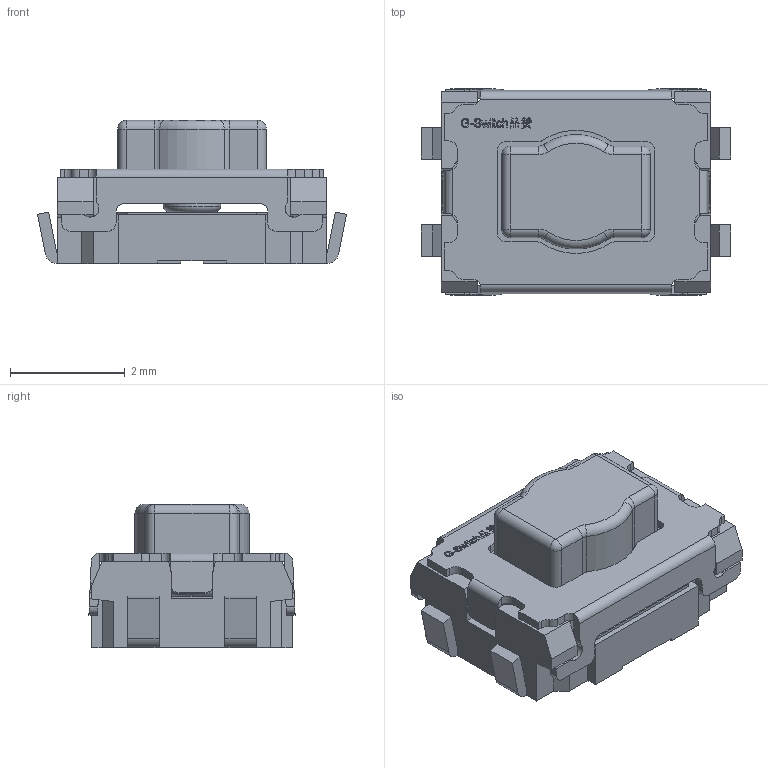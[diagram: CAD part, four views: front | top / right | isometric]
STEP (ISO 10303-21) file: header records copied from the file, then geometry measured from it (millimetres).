
FILE_DESCRIPTION (( 'STEP AP214' ), '1' );
FILE_NAME ('GT-TC033X-HXXX-LX.STEP', '2025-06-14T02:49:27', ( '' ), ( '' ), 'SwSTEP 2.0', 'SolidWorks 2023', '' );
FILE_SCHEMA (( 'AUTOMOTIVE_DESIGN' ));
Length unit declared in the file: millimetre
Products named in the file (1): GT-TC033X-HXXX-LX
Bounding box: 5.4 x 3.6 x 2.5 mm (x, y, z)
Volume: 23.3 mm3; surface area: 147.4 mm2
Topology: 1 solids, 1 shells, 672 faces, 1906 edges, 1244 vertices
Faces by surface type: plane 445, cylinder 131, bspline 74, sphere 8, torus 8, cone 6
Entity records: 25383 total; most frequent: CARTESIAN_POINT 8342, ORIENTED_EDGE 3804, DIRECTION 3128, EDGE_CURVE 1902, VECTOR 1420, LINE 1420, VERTEX_POINT 1244, AXIS2_PLACEMENT_3D 854
